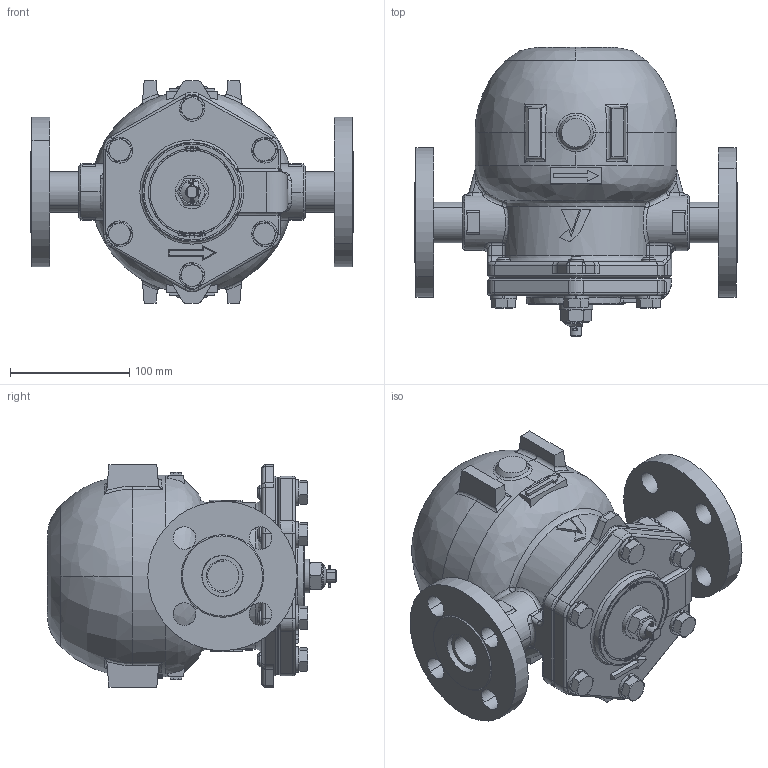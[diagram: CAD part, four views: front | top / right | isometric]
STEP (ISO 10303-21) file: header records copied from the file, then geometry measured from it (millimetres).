
FILE_DESCRIPTION( (''), '2;1');
FILE_NAME ('PC1027.12188.TSF-11SF JIS20KRF 25A_1923.stp','2025-07-31T10:49:38',(''),(''),'spGate 20.6.3 (****-****-****-****)','','');
FILE_SCHEMA (('AUTOMOTIVE_DESIGN'));
Length unit declared in the file: millimetre
Products named in the file (13): Assembly; SOP 20K 25A; CP_SUS_Q_Q''_SUS304TP 25AxSch40x260_5126; 3D_@TSF-10_@_____s__; 3D_@TSF-10_@_Z_p_i_b_g; 3D_@TSF-10_@_J___[; 3D_@TSF-11_@________; ____; _R_b_N____; CP_''_JIS B 1180 _____a_Z_p_{___g''_17168; SSLW12; ________; _{__25A ____
Assembly tree (23 placements, depth 2):
  Assembly
    SOP 20K 25A  x2
    CP_SUS_Q_Q''_SUS304TP 25AxSch40x260_5126
    3D_@TSF-10_@_____s__
    3D_@TSF-10_@_Z_p_i_b_g
    3D_@TSF-10_@_J___[
    3D_@TSF-11_@________
    ____
    _R_b_N____
    CP_''_JIS B 1180 _____a_Z_p_{___g''_17168  x6
    SSLW12  x6
    ________
    _{__25A ____
Bounding box: 270 x 242 x 186 mm (x, y, z)
Volume: 4177851.6 mm3; surface area: 355323 mm2
Topology: 23 solids, 23 shells, 1027 faces, 3457 edges, 2489 vertices
Faces by surface type: plane 466, bspline 309, cylinder 252
Full cylindrical faces by diameter (mm): 35 x1
Entity records: 68676 total; most frequent: CARTESIAN_POINT 27764, ORIENTED_EDGE 5588, COLOUR_RGB 3666, PRESENTATION_STYLE_ASSIGNMENT 3666, STYLED_ITEM 3666, DIRECTION 2833, EDGE_CURVE 2794, DRAUGHTING_PRE_DEFINED_CURVE_FONT 2794
